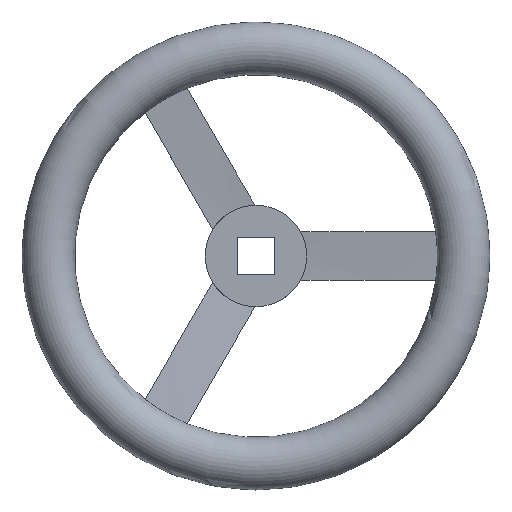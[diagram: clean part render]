
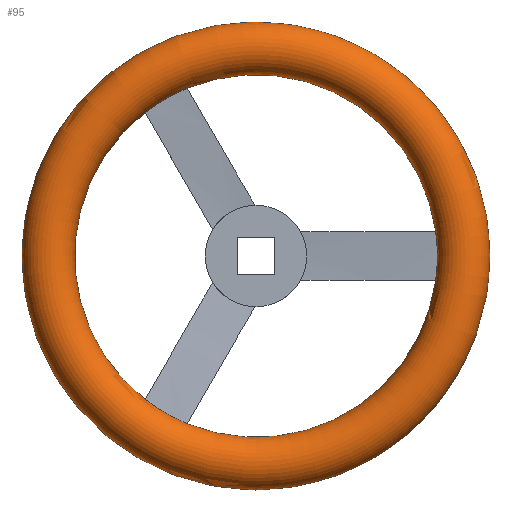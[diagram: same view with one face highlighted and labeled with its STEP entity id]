
A CAD part, top view. The second image highlights one B-rep face of the part: STEP entity #95.
In plain terms, the highlighted toroidal (fillet/blend) face has major radius 106.5 mm and minor radius 13.5 mm.
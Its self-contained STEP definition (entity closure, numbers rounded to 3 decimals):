
#95 = ADVANCED_FACE( '', ( #156, #157 ), #158, .T. );
#156 = FACE_OUTER_BOUND( '', #233, .T. );
#157 = FACE_OUTER_BOUND( '', #234, .T. );
#158 = TOROIDAL_SURFACE( '', #235, 106.5, 13.5 );
#233 = EDGE_LOOP( '', ( #421 ) );
#234 = EDGE_LOOP( '', ( #422, #423, #424, #425, #426, #427 ) );
#235 = AXIS2_PLACEMENT_3D( '', #428, #429, #430 );
#421 = ORIENTED_EDGE( '', *, *, #562, .T. );
#422 = ORIENTED_EDGE( '', *, *, #563, .F. );
#423 = ORIENTED_EDGE( '', *, *, #507, .F. );
#424 = ORIENTED_EDGE( '', *, *, #564, .F. );
#425 = ORIENTED_EDGE( '', *, *, #557, .F. );
#426 = ORIENTED_EDGE( '', *, *, #565, .F. );
#427 = ORIENTED_EDGE( '', *, *, #561, .T. );
#428 = CARTESIAN_POINT( '', ( 0., 0., 25. ) );
#429 = DIRECTION( '', ( 0., 0., 1. ) );
#430 = DIRECTION( '', ( 1., 0., 0. ) );
#507 = EDGE_CURVE( '', #583, #574, #585, .T. );
#557 = EDGE_CURVE( '', #605, #659, #668, .T. );
#561 = EDGE_CURVE( '', #669, #615, #674, .T. );
#562 = EDGE_CURVE( '', #675, #675, #676, .T. );
#563 = EDGE_CURVE( '', #574, #615, #677, .T. );
#564 = EDGE_CURVE( '', #659, #583, #678, .T. );
#565 = EDGE_CURVE( '', #669, #605, #679, .T. );
#574 = VERTEX_POINT( '', #700 );
#583 = VERTEX_POINT( '', #721 );
#585 = CIRCLE( '', #724, 93. );
#605 = VERTEX_POINT( '', #792 );
#615 = VERTEX_POINT( '', #823 );
#659 = VERTEX_POINT( '', #888 );
#668 = CIRCLE( '', #912, 93. );
#669 = VERTEX_POINT( '', #913 );
#674 = CIRCLE( '', #929, 93. );
#675 = VERTEX_POINT( '', #930 );
#676 = CIRCLE( '', #931, 120. );
#677 = CIRCLE( '', #932, 93. );
#678 = CIRCLE( '', #933, 93. );
#679 = CIRCLE( '', #934, 93. );
#700 = CARTESIAN_POINT( '', ( 92.156, -12.5, 25. ) );
#721 = CARTESIAN_POINT( '', ( -35.253, -86.06, 25. ) );
#724 = AXIS2_PLACEMENT_3D( '', #950, #951, #952 );
#792 = CARTESIAN_POINT( '', ( -56.903, 73.56, 25. ) );
#823 = CARTESIAN_POINT( '', ( 92.156, 12.5, 25. ) );
#888 = CARTESIAN_POINT( '', ( -56.903, -73.56, 25. ) );
#912 = AXIS2_PLACEMENT_3D( '', #1025, #1026, #1027 );
#913 = CARTESIAN_POINT( '', ( -35.253, 86.06, 25. ) );
#929 = AXIS2_PLACEMENT_3D( '', #1030, #1031, #1032 );
#930 = CARTESIAN_POINT( '', ( 120., 0., 25. ) );
#931 = AXIS2_PLACEMENT_3D( '', #1033, #1034, #1035 );
#932 = AXIS2_PLACEMENT_3D( '', #1036, #1037, #1038 );
#933 = AXIS2_PLACEMENT_3D( '', #1039, #1040, #1041 );
#934 = AXIS2_PLACEMENT_3D( '', #1042, #1043, #1044 );
#950 = CARTESIAN_POINT( '', ( 0., 0., 25. ) );
#951 = DIRECTION( '', ( 0., 0., 1. ) );
#952 = DIRECTION( '', ( 1., 0., 0. ) );
#1025 = CARTESIAN_POINT( '', ( 0., 0., 25. ) );
#1026 = DIRECTION( '', ( 0., 0., 1. ) );
#1027 = DIRECTION( '', ( 1., 0., 0. ) );
#1030 = CARTESIAN_POINT( '', ( 0., 0., 25. ) );
#1031 = DIRECTION( '', ( 0., 0., -1. ) );
#1032 = DIRECTION( '', ( -1., 0., 0. ) );
#1033 = CARTESIAN_POINT( '', ( 0., 0., 25. ) );
#1034 = DIRECTION( '', ( 0., 0., 1. ) );
#1035 = DIRECTION( '', ( 1., 0., 0. ) );
#1036 = CARTESIAN_POINT( '', ( 0., 0., 25. ) );
#1037 = DIRECTION( '', ( 0., 0., 1. ) );
#1038 = DIRECTION( '', ( 1., 0., 0. ) );
#1039 = CARTESIAN_POINT( '', ( 0., 0., 25. ) );
#1040 = DIRECTION( '', ( 0., 0., 1. ) );
#1041 = DIRECTION( '', ( 1., 0., 0. ) );
#1042 = CARTESIAN_POINT( '', ( 0., 0., 25. ) );
#1043 = DIRECTION( '', ( 0., 0., 1. ) );
#1044 = DIRECTION( '', ( 1., 0., 0. ) );
